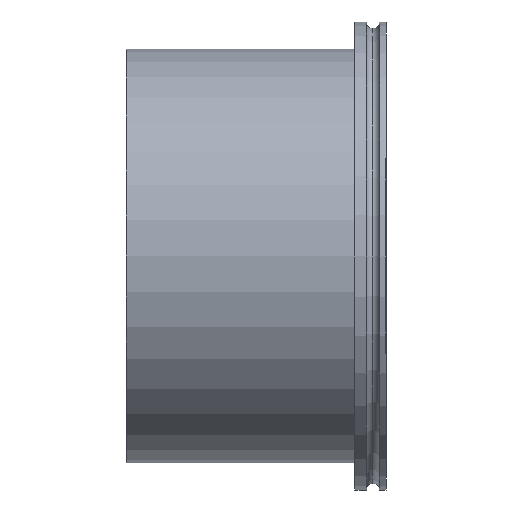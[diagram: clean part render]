
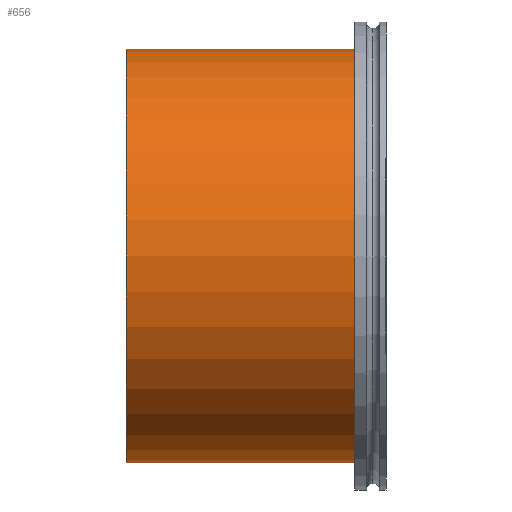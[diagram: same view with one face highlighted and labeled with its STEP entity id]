
A CAD part, left-side view. The second image highlights one B-rep face of the part: STEP entity #656.
In plain terms, the highlighted cylindrical face has radius 79.5 mm (diameter 159 mm), a partial arc.
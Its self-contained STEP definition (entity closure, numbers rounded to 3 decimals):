
#7 = VERTEX_POINT ( 'NONE', #671 ) ;
#22 = CARTESIAN_POINT ( 'NONE',  ( 0., 100., 0. ) ) ;
#35 = AXIS2_PLACEMENT_3D ( 'NONE', #251, #366, #413 ) ;
#48 = VERTEX_POINT ( 'NONE', #636 ) ;
#58 = CARTESIAN_POINT ( 'NONE',  ( 0., 8., 0. ) ) ;
#78 = EDGE_CURVE ( 'NONE', #7, #369, #304, .T. ) ;
#84 = DIRECTION ( 'NONE',  ( 0., 0., 1. ) ) ;
#93 = EDGE_CURVE ( 'NONE', #7, #48, #231, .T. ) ;
#131 = LINE ( 'NONE', #433, #428 ) ;
#134 = CARTESIAN_POINT ( 'NONE',  ( 0., 100., 79.5 ) ) ;
#141 = FACE_OUTER_BOUND ( 'NONE', #554, .T. ) ;
#155 = CIRCLE ( 'NONE', #565, 79.5 ) ;
#156 = CARTESIAN_POINT ( 'NONE',  ( 0., 8., 79.5 ) ) ;
#201 = VECTOR ( 'NONE', #526, 1000. ) ;
#218 = ORIENTED_EDGE ( 'NONE', *, *, #535, .T. ) ;
#229 = DIRECTION ( 'NONE',  ( 0., 0., 1. ) ) ;
#231 = LINE ( 'NONE', #310, #201 ) ;
#251 = CARTESIAN_POINT ( 'NONE',  ( 0., 100., 0. ) ) ;
#297 = DIRECTION ( 'NONE',  ( 0., 1., 0. ) ) ;
#304 = CIRCLE ( 'NONE', #502, 79.5 ) ;
#310 = CARTESIAN_POINT ( 'NONE',  ( 0., 100., -79.5 ) ) ;
#317 = DIRECTION ( 'NONE',  ( 0., 1., 0. ) ) ;
#318 = DIRECTION ( 'NONE',  ( 0., -1., 0. ) ) ;
#359 = ORIENTED_EDGE ( 'NONE', *, *, #78, .F. ) ;
#366 = DIRECTION ( 'NONE',  ( 0., -1., 0. ) ) ;
#369 = VERTEX_POINT ( 'NONE', #134 ) ;
#413 = DIRECTION ( 'NONE',  ( 0., 0., -1. ) ) ;
#425 = CYLINDRICAL_SURFACE ( 'NONE', #35, 79.5 ) ;
#428 = VECTOR ( 'NONE', #318, 1000. ) ;
#433 = CARTESIAN_POINT ( 'NONE',  ( 0., 100., 79.5 ) ) ;
#437 = EDGE_CURVE ( 'NONE', #369, #487, #131, .T. ) ;
#486 = ORIENTED_EDGE ( 'NONE', *, *, #437, .F. ) ;
#487 = VERTEX_POINT ( 'NONE', #156 ) ;
#502 = AXIS2_PLACEMENT_3D ( 'NONE', #22, #317, #84 ) ;
#505 = ORIENTED_EDGE ( 'NONE', *, *, #93, .T. ) ;
#526 = DIRECTION ( 'NONE',  ( 0., -1., 0. ) ) ;
#535 = EDGE_CURVE ( 'NONE', #48, #487, #155, .T. ) ;
#554 = EDGE_LOOP ( 'NONE', ( #486, #359, #505, #218 ) ) ;
#565 = AXIS2_PLACEMENT_3D ( 'NONE', #58, #297, #229 ) ;
#636 = CARTESIAN_POINT ( 'NONE',  ( 0., 8., -79.5 ) ) ;
#656 = ADVANCED_FACE ( 'NONE', ( #141 ), #425, .T. ) ;
#671 = CARTESIAN_POINT ( 'NONE',  ( 0., 100., -79.5 ) ) ;
